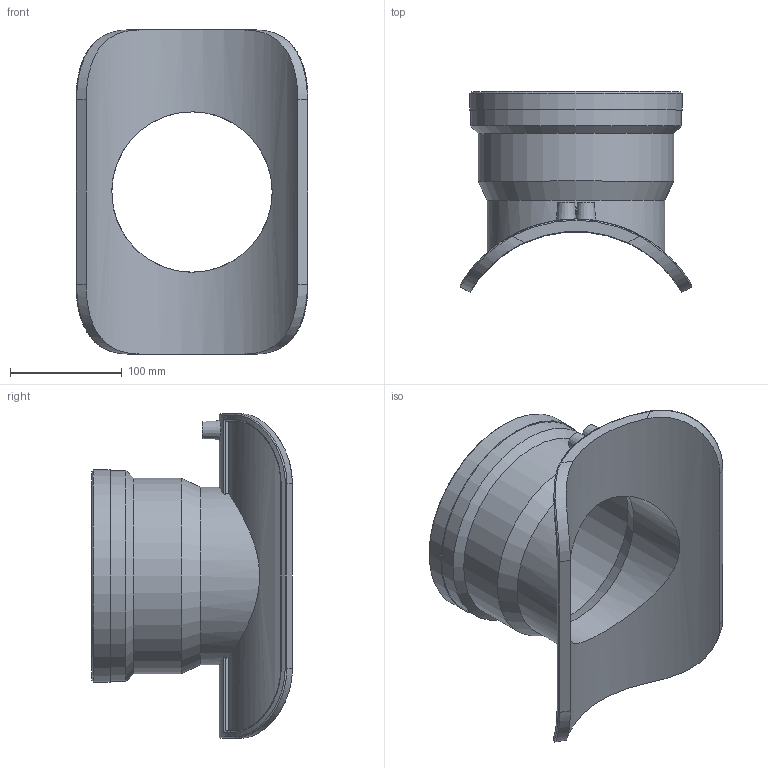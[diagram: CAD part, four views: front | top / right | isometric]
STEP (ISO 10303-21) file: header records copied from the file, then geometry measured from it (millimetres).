
FILE_DESCRIPTION(/* description */ ('PLASSON WASTEWATER SADDLE TEE 90 8''''IPS x 6''''PSM for PVC'),/* implementation_level */ '2;1');
FILE_NAME(/* name */ 'C:\Dropbox\KIMPROJECTS-Inventor 2019\99-16-3568-Processing Inch\ASTM ElectroFusion 2021\5758BP\5758BPV4080060.ipt.stp',/* time_stamp */ '2021-08-30T09:48:17+03:00',/* author */ ('Кирилл'),/* organization */ (''),/* preprocessor_version */ 'ST-DEVELOPER v17.2',/* originating_system */ 'Autodesk Inventor 2019',/* authorisation */ '');
FILE_SCHEMA (('AUTOMOTIVE_DESIGN { 1 0 10303 214 3 1 1 }'));
Length unit declared in the file: inch
Products named in the file (1): 5758BPV4080060
Bounding box: 207.21 x 179.4 x 289.56 mm (x, y, z)
Volume: 1041407.5 mm3; surface area: 261966.5 mm2
Topology: 1 solids, 1 shells, 83 faces, 208 edges, 135 vertices
Faces by surface type: cylinder 34, plane 23, cone 12, bspline 8, torus 6
Full cylindrical faces by diameter (mm): 4 x2, 10 x2, 143.19 x1, 158.636 x1, 159.1 x3, 174.546 x1, 188.092 x1, 189.992 x1
Entity records: 3516 total; most frequent: CARTESIAN_POINT 1506, ORIENTED_EDGE 416, DIRECTION 406, EDGE_CURVE 208, AXIS2_PLACEMENT_3D 168, VERTEX_POINT 135, EDGE_LOOP 93, CIRCLE 88
